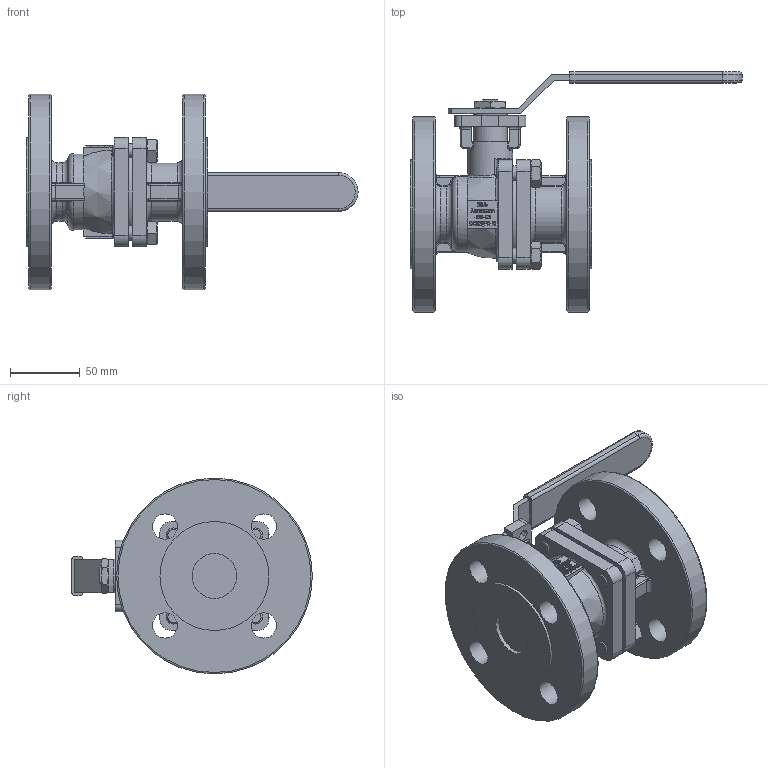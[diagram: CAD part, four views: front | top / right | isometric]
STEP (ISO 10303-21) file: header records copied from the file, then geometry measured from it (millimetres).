
FILE_DESCRIPTION((''),'2;1');
FILE_NAME('K:\Inventor\1 Artikel\12) Flanschen-Kugelhähne\12a) manuell\Econosto\465-GS, PN40, 7249\465-GS, DN32\465-GS, DN32, 3D\465-GS, DN32, PN40, HH, 3D.stp','2019-11-21T14:05:14',('claudia'),(''),'Autodesk Inventor 2013','Autodesk Inventor 2013','');
FILE_SCHEMA(('AUTOMOTIVE_DESIGN { 1 0 10303 214 1 1 1 1 }'));
Length unit declared in the file: millimetre
Products named in the file (1): Bauteil9
Bounding box: 237.4 x 172.11 x 140 mm (x, y, z)
Volume: 844061.7 mm3; surface area: 137273.4 mm2
Topology: 1 solids, 1 shells, 1551 faces, 4173 edges, 2729 vertices
Faces by surface type: plane 770, bspline 573, cylinder 127, torus 47, cone 32, sphere 2
Full cylindrical faces by diameter (mm): 10 x4, 10.5 x4, 18 x8, 24 x1, 32 x3, 34 x1, 70 x1, 78 x2, 140 x2
Entity records: 54547 total; most frequent: CARTESIAN_POINT 19494, ORIENTED_EDGE 8178, DIRECTION 5152, EDGE_CURVE 4089, VERTEX_POINT 2712, VECTOR 2460, LINE 2460, EDGE_LOOP 1759
